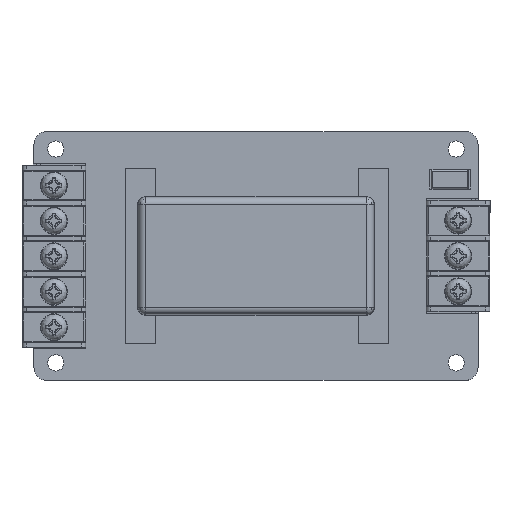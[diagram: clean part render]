
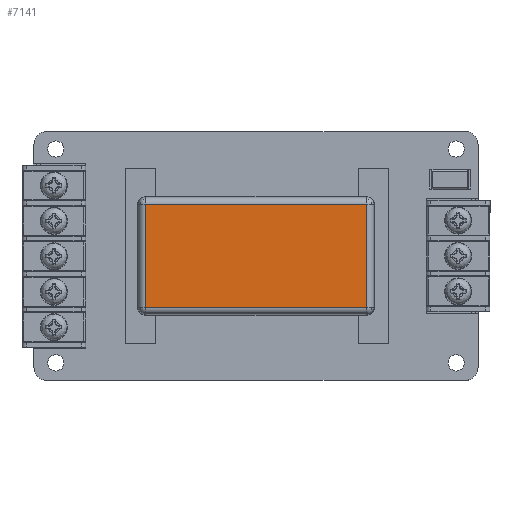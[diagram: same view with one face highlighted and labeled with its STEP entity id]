
A CAD part, top view. The second image highlights one B-rep face of the part: STEP entity #7141.
In plain terms, the highlighted planar face has unit normal (0, 0, 1).
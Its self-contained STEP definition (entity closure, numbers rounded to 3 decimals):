
#798=PLANE($,#7750);
#1140=FACE_OUTER_BOUND($,#1628,.T.);
#1628=EDGE_LOOP($,(#6442,#6443,#6444,#6445));
#2407=LINE($,#11777,#3117);
#2408=LINE($,#11779,#3118);
#2409=LINE($,#11781,#3119);
#2410=LINE($,#11782,#3120);
#3117=VECTOR($,#9594,47.634);
#3118=VECTOR($,#9595,22.234);
#3119=VECTOR($,#9596,47.634);
#3120=VECTOR($,#9597,22.234);
#3746=VERTEX_POINT($,#11775);
#3747=VERTEX_POINT($,#11776);
#3748=VERTEX_POINT($,#11778);
#3749=VERTEX_POINT($,#11780);
#4660=EDGE_CURVE($,#3746,#3747,#2407,.T.);
#4661=EDGE_CURVE($,#3748,#3746,#2408,.T.);
#4662=EDGE_CURVE($,#3749,#3748,#2409,.T.);
#4663=EDGE_CURVE($,#3747,#3749,#2410,.T.);
#6442=ORIENTED_EDGE($,*,*,#4660,.F.);
#6443=ORIENTED_EDGE($,*,*,#4661,.F.);
#6444=ORIENTED_EDGE($,*,*,#4662,.F.);
#6445=ORIENTED_EDGE($,*,*,#4663,.F.);
#7141=ADVANCED_FACE($,(#1140),#798,.T.);
#7750=AXIS2_PLACEMENT_3D($,#11774,#9592,#9593);
#9592=DIRECTION('center_axis',(0.,0.,1.));
#9593=DIRECTION('ref_axis',(1.,0.,0.));
#9594=DIRECTION($,(-1.,0.,0.));
#9595=DIRECTION($,(0.,-1.,0.));
#9596=DIRECTION($,(1.,0.,0.));
#9597=DIRECTION($,(0.,1.,0.));
#11774=CARTESIAN_POINT('Origin',(25.4,12.7,11.));
#11775=CARTESIAN_POINT('',(49.217,1.583,11.));
#11776=CARTESIAN_POINT('',(1.583,1.583,11.));
#11777=CARTESIAN_POINT($,(38.1,1.583,11.));
#11778=CARTESIAN_POINT('',(49.217,23.817,11.));
#11779=CARTESIAN_POINT($,(49.217,19.05,11.));
#11780=CARTESIAN_POINT('',(1.583,23.817,11.));
#11781=CARTESIAN_POINT($,(12.7,23.817,11.));
#11782=CARTESIAN_POINT($,(1.583,6.35,11.));
